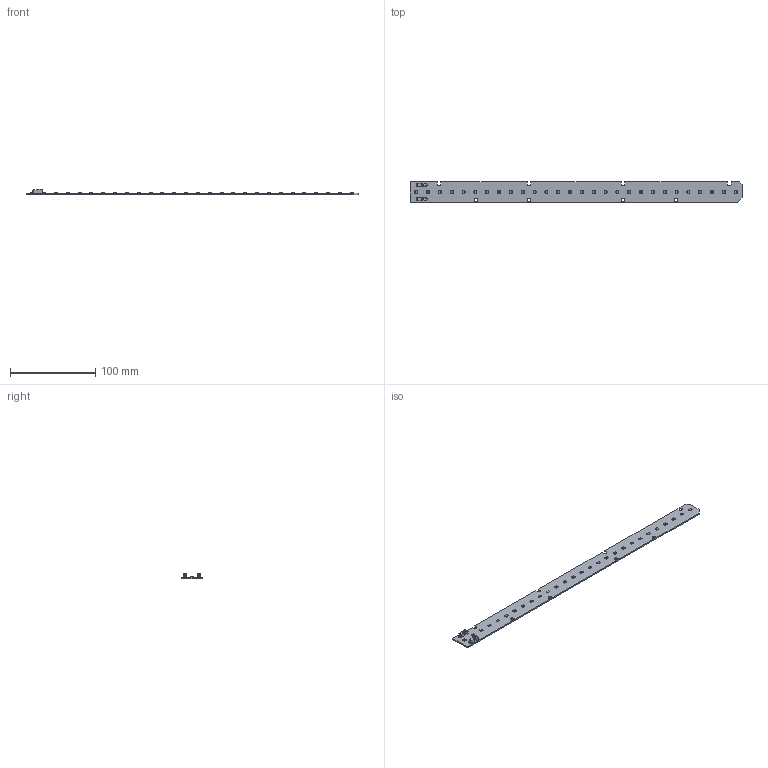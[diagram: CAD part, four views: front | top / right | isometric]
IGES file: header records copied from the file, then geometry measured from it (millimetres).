
Start section: SolidWorks IGES file using analytic representation for surfaces
Global section: file name: C:\Users\vuorinen_kari\Desktop\prj\LED_kosketussuojaus\led_module LZ390.IGS; native system: SolidWorks 2014; preprocessor: SolidWorks 2014; author: vuorinen_kari; date: 180219.090143; units: millimetre
Bounding box: 390 x 24 x 5.95 mm (x, y, z)
Surface area: 21274.2 mm2 (no closed solid volume)
Topology: 0 solids, 0 shells, 1770 faces, 12814 edges, 12814 vertices
Faces by surface type: bspline 1196, revolution 574
